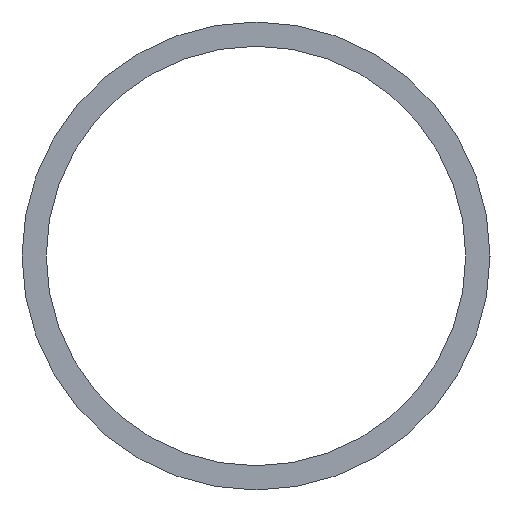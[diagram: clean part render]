
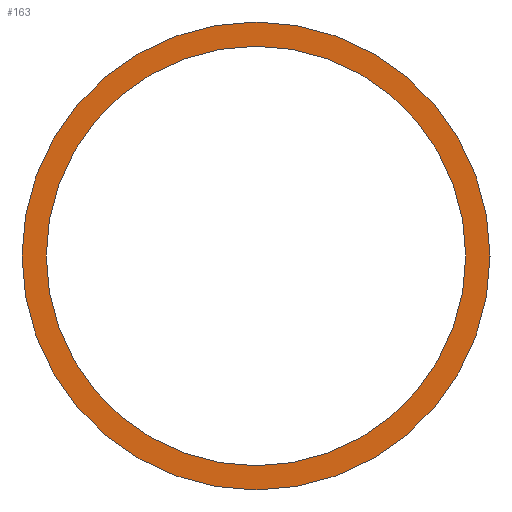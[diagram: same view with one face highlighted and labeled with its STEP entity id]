
A CAD part, left-side view. The second image highlights one B-rep face of the part: STEP entity #163.
In plain terms, the highlighted planar face has unit normal (-1, 0, 0).
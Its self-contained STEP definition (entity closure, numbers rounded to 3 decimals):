
#3 = EDGE_CURVE ( 'NONE', #76, #141, #138, .T. ) ;
#18 = VERTEX_POINT ( 'NONE', #44 ) ;
#22 = EDGE_LOOP ( 'NONE', ( #166, #65 ) ) ;
#23 = DIRECTION ( 'NONE',  ( 1., 0., 0. ) ) ;
#28 = DIRECTION ( 'NONE',  ( 0., 0., -1. ) ) ;
#29 = CARTESIAN_POINT ( 'NONE',  ( 7065., 1810., 3517.5 ) ) ;
#33 = DIRECTION ( 'NONE',  ( 0., 0., -1. ) ) ;
#34 = CARTESIAN_POINT ( 'NONE',  ( 7065., 1810., 3495.85 ) ) ;
#39 = DIRECTION ( 'NONE',  ( 0., 0., -1. ) ) ;
#40 = AXIS2_PLACEMENT_3D ( 'NONE', #34, #23, #202 ) ;
#41 = AXIS2_PLACEMENT_3D ( 'NONE', #61, #126, #62 ) ;
#43 = CARTESIAN_POINT ( 'NONE',  ( 7065., 1810., 3474.2 ) ) ;
#44 = CARTESIAN_POINT ( 'NONE',  ( 7065., 1810., 3471.7 ) ) ;
#57 = FACE_OUTER_BOUND ( 'NONE', #22, .T. ) ;
#61 = CARTESIAN_POINT ( 'NONE',  ( 7065., 1810., 3495.85 ) ) ;
#62 = DIRECTION ( 'NONE',  ( 0., 0., -1. ) ) ;
#65 = ORIENTED_EDGE ( 'NONE', *, *, #199, .F. ) ;
#72 = CARTESIAN_POINT ( 'NONE',  ( 7065., 1810., 3495.85 ) ) ;
#76 = VERTEX_POINT ( 'NONE', #29 ) ;
#82 = AXIS2_PLACEMENT_3D ( 'NONE', #111, #211, #33 ) ;
#87 = EDGE_CURVE ( 'NONE', #141, #76, #135, .T. ) ;
#93 = DIRECTION ( 'NONE',  ( 1., 0., 0. ) ) ;
#97 = CIRCLE ( 'NONE', #132, 24.15 ) ;
#99 = ORIENTED_EDGE ( 'NONE', *, *, #87, .T. ) ;
#107 = PLANE ( 'NONE',  #190 ) ;
#111 = CARTESIAN_POINT ( 'NONE',  ( 7065., 1810., 3495.85 ) ) ;
#120 = FACE_BOUND ( 'NONE', #128, .T. ) ;
#126 = DIRECTION ( 'NONE',  ( 1., 0., 0. ) ) ;
#128 = EDGE_LOOP ( 'NONE', ( #150, #99 ) ) ;
#132 = AXIS2_PLACEMENT_3D ( 'NONE', #72, #176, #28 ) ;
#135 = CIRCLE ( 'NONE', #41, 21.65 ) ;
#138 = CIRCLE ( 'NONE', #40, 21.65 ) ;
#139 = CIRCLE ( 'NONE', #82, 24.15 ) ;
#141 = VERTEX_POINT ( 'NONE', #43 ) ;
#150 = ORIENTED_EDGE ( 'NONE', *, *, #3, .T. ) ;
#157 = CARTESIAN_POINT ( 'NONE',  ( 7065., 1810., 3520. ) ) ;
#163 = ADVANCED_FACE ( 'NONE', ( #57, #120 ), #107, .F. ) ;
#166 = ORIENTED_EDGE ( 'NONE', *, *, #167, .F. ) ;
#167 = EDGE_CURVE ( 'NONE', #171, #18, #97, .T. ) ;
#171 = VERTEX_POINT ( 'NONE', #157 ) ;
#176 = DIRECTION ( 'NONE',  ( 1., 0., 0. ) ) ;
#190 = AXIS2_PLACEMENT_3D ( 'NONE', #193, #93, #39 ) ;
#193 = CARTESIAN_POINT ( 'NONE',  ( 7065., 1810., 3495.85 ) ) ;
#199 = EDGE_CURVE ( 'NONE', #18, #171, #139, .T. ) ;
#202 = DIRECTION ( 'NONE',  ( 0., 0., -1. ) ) ;
#211 = DIRECTION ( 'NONE',  ( 1., 0., 0. ) ) ;
